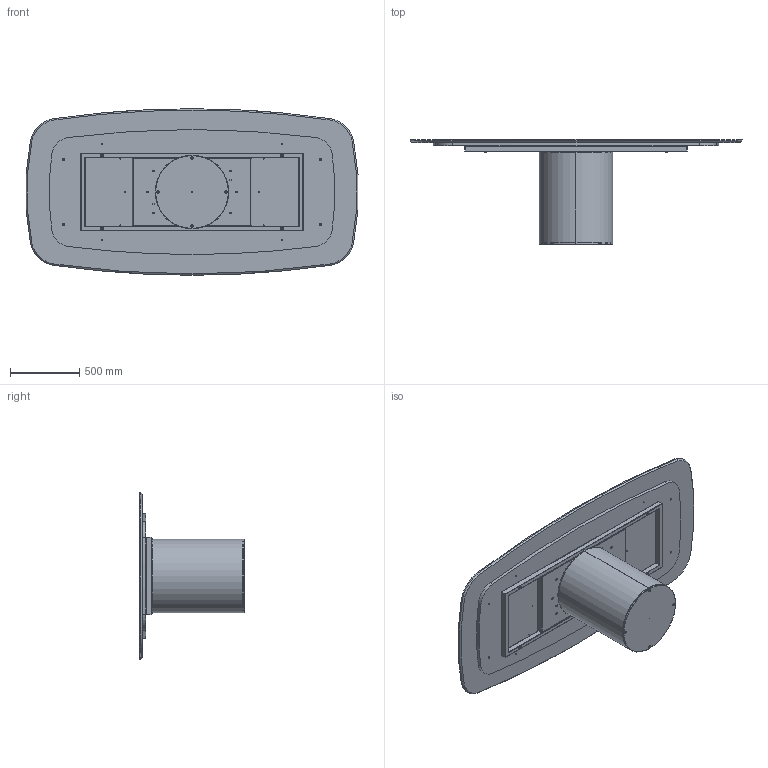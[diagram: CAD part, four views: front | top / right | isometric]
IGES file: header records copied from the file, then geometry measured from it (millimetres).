
Start section: SolidWorks IGES file using analytic representation for surfaces
Global section: file name: Y:\eforma\TECNICO\SOLIDWORKS\E-FORMA\1-TAVOLI\CILINDRO\02 parts\CI43M.IGS; native system: SolidWorks 2022; preprocessor: SolidWorks 2022; author: eforma.tech; date: 240808.092645; units: millimetre
Bounding box: 2391.9 x 755 x 1200 mm (x, y, z)
Volume: 104477158.1 mm3; surface area: 14093631.2 mm2
Topology: 21 solids, 21 shells, 797 faces, 1889 edges, 1087 vertices
Faces by surface type: revolution 503, plane 294
